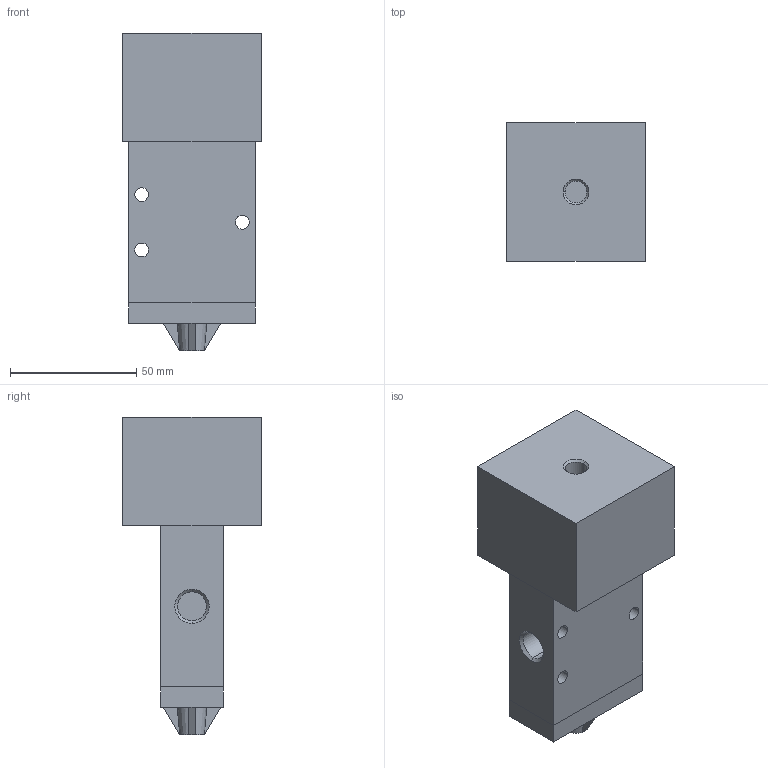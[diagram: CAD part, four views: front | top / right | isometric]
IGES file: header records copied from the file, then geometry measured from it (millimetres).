
Global section: file name: No Iges File Name specified; native system: AutoDesk Inventor R11.0; preprocessor: AutoDesk Inventor Iges Exporter R11.0; author: No Author specified; organization: No Organization specified; date: 20061219.092210; units: millimetre
Bounding box: 55 x 55 x 126 mm (x, y, z)
Volume: 215415 mm3; surface area: 29454.5 mm2
Topology: 1 solids, 1 shells, 59 faces, 142 edges, 92 vertices
Faces by surface type: plane 29, bspline 20, revolution 6, cone 4
